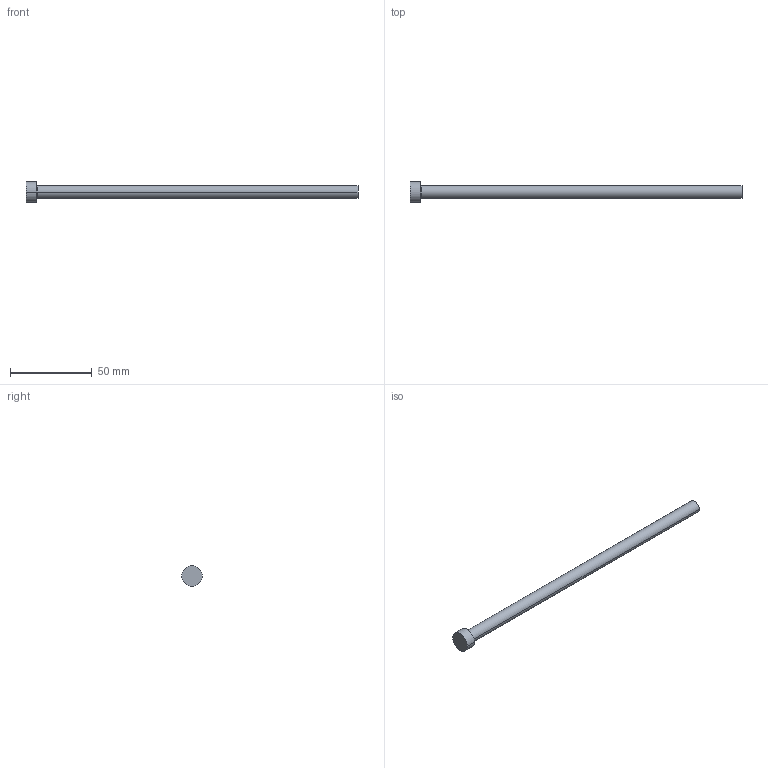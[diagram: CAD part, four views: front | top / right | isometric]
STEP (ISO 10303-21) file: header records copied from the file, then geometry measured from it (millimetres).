
FILE_DESCRIPTION (( 'STEP AP214' ), '1' );
FILE_NAME ('P21-8.STEP', '2020-03-12T09:27:48', ( '' ), ( '' ), 'SwSTEP 2.0', 'SolidWorks 2018', '' );
FILE_SCHEMA (( 'AUTOMOTIVE_DESIGN' ));
Length unit declared in the file: inch
Products named in the file (1): P21-8
Bounding box: 203.2 x 12.7 x 12.7 mm (x, y, z)
Volume: 10529.3 mm3; surface area: 5398.1 mm2
Topology: 1 solids, 1 shells, 13 faces, 24 edges, 14 vertices
Faces by surface type: cone 4, cylinder 4, plane 3, torus 2
Entity records: 366 total; most frequent: DIRECTION 68, CARTESIAN_POINT 52, ORIENTED_EDGE 48, AXIS2_PLACEMENT_3D 30, EDGE_CURVE 24, CIRCLE 16, VERTEX_POINT 14, EDGE_LOOP 14
